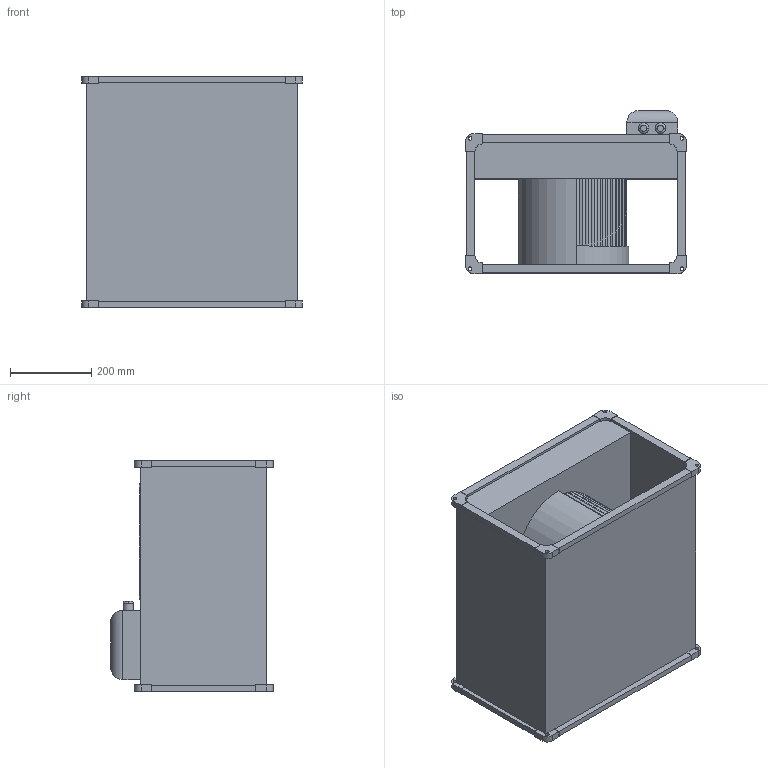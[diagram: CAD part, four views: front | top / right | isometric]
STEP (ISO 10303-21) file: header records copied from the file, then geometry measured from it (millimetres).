
FILE_DESCRIPTION(('STEP AP214'),'1');
FILE_NAME('fan_5132057000.stp','2017-03-31T18:13:17',('TraceParts'),('TraceParts S.A.'),'Spatial InterOp 3D',' ',' ');
FILE_SCHEMA(('automotive_design'));
Length unit declared in the file: millimetre
Products named in the file (1): fan_5132057000
Bounding box: 542 x 400 x 567 mm (x, y, z)
Volume: 44415836.3 mm3; surface area: 2251962.3 mm2
Topology: 1 solids, 1 shells, 257 faces, 754 edges, 502 vertices
Faces by surface type: cylinder 154, plane 99, torus 4
Entity records: 10786 total; most frequent: DIRECTION 1588, CARTESIAN_POINT 1514, ORIENTED_EDGE 1508, EDGE_CURVE 754, AXIS2_PLACEMENT_3D 576, VERTEX_POINT 502, LINE 436, VECTOR 436
